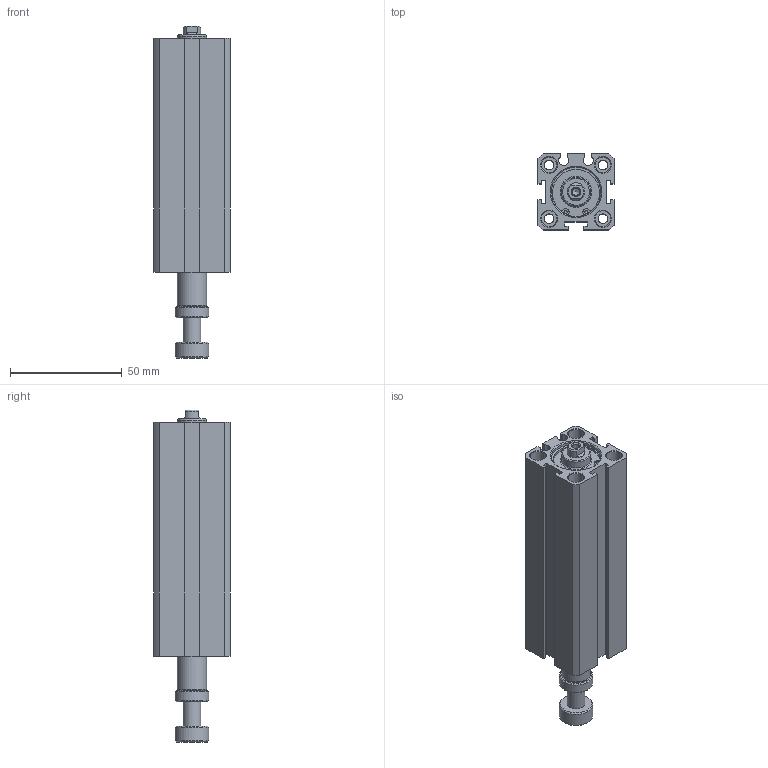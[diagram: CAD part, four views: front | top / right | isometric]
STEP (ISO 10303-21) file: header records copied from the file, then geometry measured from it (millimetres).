
FILE_DESCRIPTION((''),'2;1');
FILE_NAME('I:\3D電子目錄\氣缸\JDAR\JDAR-S\JDAR20-S\JDAR20x75-S.stp','2007-05-05T08:46:01',('662F206'),(''),'Autodesk Inventor 11','Autodesk Inventor 11','');
FILE_SCHEMA(('AUTOMOTIVE_DESIGN { 1 0 10303 214 1 1 1 1 }'));
Length unit declared in the file: millimetre
Products named in the file (3): JDAR20-S; JDAR20; R 形環 23
Assembly tree (3 placements, depth 2):
  JDAR20-S
    JDAR20
    R 形環 23  x2
Bounding box: 34 x 34 x 148.3 mm (x, y, z)
Volume: 102640.7 mm3; surface area: 31557.2 mm2
Topology: 3 solids, 3 shells, 148 faces, 336 edges, 218 vertices
Faces by surface type: plane 70, cylinder 49, cone 19, bspline 8, torus 2
Full cylindrical faces by diameter (mm): 1.5 x6, 4.3 x4, 7 x8, 8 x1, 13 x2, 15 x2, 22 x4, 23.2 x2
Entity records: 3721 total; most frequent: CARTESIAN_POINT 750, DIRECTION 626, ORIENTED_EDGE 494, AXIS2_PLACEMENT_3D 249, EDGE_CURVE 247, EDGE_LOOP 224, VERTEX_POINT 191, FACE_OUTER_BOUND 136
